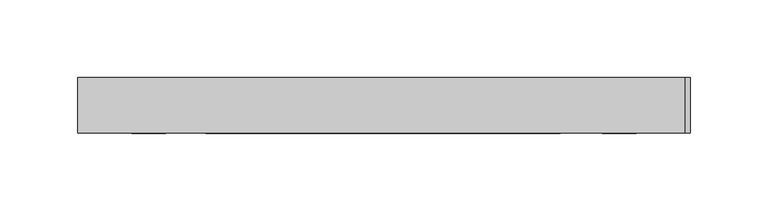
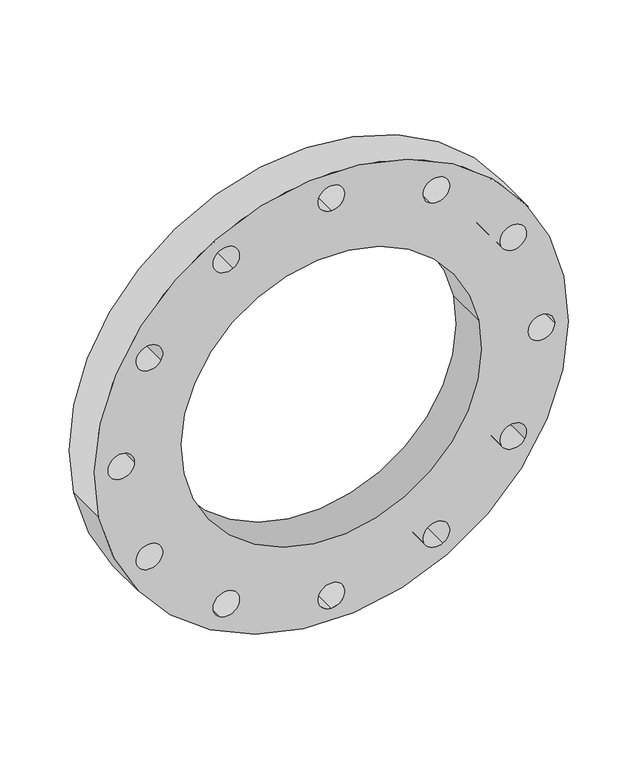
"""IFC4 building model written with IfcOpenShell, lengths in millimetres: pipe fitting geometry, 01051019 : Bridas."""

import ifcopenshell
import ifcopenshell.guid

model = None  # the IFC model being written
_history = None  # IfcOwnerHistory: only IFC2X3 demands one
_inside = {}  # id of a spatial element -> (the spatial element, [elements in it])
_under = {}  # id of a project, library or spatial element -> (it, [spatial elements below it])
_declared = {}  # id of a project -> (the project, [libraries it declares])
_typed = {}  # id of a type object -> (the type object, [elements of that type])
_made_of = {}  # id of a material, layer set ... -> (it, [elements and type objects made of it])


def new_model(schema):
    """Start an empty IFC model of exactly this schema.

    Asked for "IFC4X3", IfcOpenShell would pick the latest addendum, in which some entities
    have other attributes; the version numbers below select the first issue.
    IFC2X3 requires an IfcOwnerHistory on every rooted entity: one is made here for all.
    """
    global model, _history
    if schema == "IFC4X3":
        model = ifcopenshell.file(schema_version=(4, 3, 0, 0))
    else:
        model = ifcopenshell.file(schema=schema)
    _inside.clear()
    _under.clear()
    _declared.clear()
    _typed.clear()
    _made_of.clear()
    _history = None
    if model.schema == "IFC2X3":
        org = make("IfcOrganization", Name="unknown")
        user = make(
            "IfcPersonAndOrganization",
            ThePerson=make("IfcPerson", FamilyName="unknown"),
            TheOrganization=org,
        )
        app = make(
            "IfcApplication",
            ApplicationDeveloper=org,
            Version="unknown",
            ApplicationFullName="unknown",
            ApplicationIdentifier="unknown",
        )
        _history = make(
            "IfcOwnerHistory",
            OwningUser=user,
            OwningApplication=app,
            ChangeAction="ADDED",
            CreationDate=0,
        )
    return model


def make(cls, **values):
    """One entity of the class cls with the attributes given. An attribute that is None is left unset."""
    return model.create_entity(
        cls, **{name: value for name, value in values.items() if value is not None}
    )


def rooted(cls, **values):
    """An entity with a GlobalId (a new one), such as an element, a storey or a relation."""
    return make(cls, GlobalId=ifcopenshell.guid.new(), OwnerHistory=_history, **values)


def si_unit(unit_type, name, prefix=None):
    """IfcSIUnit, for example si_unit("LENGTHUNIT", "METRE", prefix="MILLI")."""
    return make("IfcSIUnit", UnitType=unit_type, Prefix=prefix, Name=name)


def assignment(units):
    """IfcUnitAssignment: the units of a project."""
    return None if units is None else make("IfcUnitAssignment", Units=units)


def point(xyz):
    """IfcCartesianPoint."""
    return None if xyz is None else make("IfcCartesianPoint", Coordinates=xyz)


def direction(xyz):
    """IfcDirection."""
    return None if xyz is None else make("IfcDirection", DirectionRatios=xyz)


def frame(location, z_axis=None, x_axis=None):
    """IfcAxis2Placement3D, a coordinate frame: its origin and axes. An axis left out is left unset."""
    return make(
        "IfcAxis2Placement3D",
        Location=point(location),
        Axis=direction(z_axis),
        RefDirection=direction(x_axis),
    )


def frame_2d(location, x_axis=None):
    """IfcAxis2Placement2D, a coordinate frame in the plane: its origin and x axis."""
    return make(
        "IfcAxis2Placement2D", Location=point(location), RefDirection=direction(x_axis)
    )


def origin():
    """The frame at (0, 0, 0) with its axes left unset."""
    return frame((0.0, 0.0, 0.0))


def origin_2d():
    """The frame at (0, 0) in the plane with its x axis left unset."""
    return frame_2d((0.0, 0.0))


def place(relative_to, where):
    """IfcLocalPlacement: puts the frame where relative to a parent placement (None: the world)."""
    return make(
        "IfcLocalPlacement", PlacementRelTo=relative_to, RelativePlacement=where
    )


def context(
    kind, dimensions, precision=None, world=None, true_north=None, identifier=None
):
    """IfcGeometricRepresentationContext, for example the 3D "Model" context."""
    return make(
        "IfcGeometricRepresentationContext",
        ContextIdentifier=identifier,
        ContextType=kind,
        CoordinateSpaceDimension=dimensions,
        Precision=precision,
        WorldCoordinateSystem=world,
        TrueNorth=true_north,
    )


def project(units=None, contexts=None):
    """IfcProject with its units and contexts."""
    return rooted(
        "IfcProject",
        Name="project",
        RepresentationContexts=contexts,
        UnitsInContext=assignment(units),
    )


def spatial(cls, under=None, at=None, **own):
    """A site, building, storey or space (cls), placed at a placement, below another one or the project."""
    s = rooted(cls, ObjectPlacement=at, **own)
    if under is not None:
        _under.setdefault(under.id(), (under, []))[1].append(s)
    return s


def circle_curve(where, radius):
    """IfcCircle in the frame where."""
    return make("IfcCircle", Position=where, Radius=radius)


def trimmed(basis, trim1, trim2, sense, master):
    """IfcTrimmedCurve: the piece of a basis curve between two trims."""
    return make(
        "IfcTrimmedCurve",
        BasisCurve=basis,
        Trim1=trim1,
        Trim2=trim2,
        SenseAgreement=sense,
        MasterRepresentation=master,
    )


def segment(curve, same_sense, transition):
    """IfcCompositeCurveSegment."""
    return make(
        "IfcCompositeCurveSegment",
        Transition=transition,
        SameSense=same_sense,
        ParentCurve=curve,
    )


def composite_curve(segments, self_intersect=None):
    """IfcCompositeCurve: segments joined end to end."""
    return make("IfcCompositeCurve", Segments=segments, SelfIntersect=self_intersect)


def outline(outer, holes=None, kind="AREA"):
    """IfcArbitraryClosedProfileDef: a profile drawn as a closed curve; with holes, ...WithVoids."""
    if holes is None:
        return make("IfcArbitraryClosedProfileDef", ProfileType=kind, OuterCurve=outer)
    return make(
        "IfcArbitraryProfileDefWithVoids",
        ProfileType=kind,
        OuterCurve=outer,
        InnerCurves=holes,
    )


def extrude(swept, where, along, depth):
    """IfcExtrudedAreaSolid: the profile swept, set in the frame where, extruded along a direction by depth."""
    return make(
        "IfcExtrudedAreaSolid",
        SweptArea=swept,
        Position=where,
        ExtrudedDirection=direction(along),
        Depth=depth,
    )


def shape(context_of_items, identifier, shape_type, items):
    """IfcShapeRepresentation: the items that make up one representation, for example the "Body"."""
    return make(
        "IfcShapeRepresentation",
        ContextOfItems=context_of_items,
        RepresentationIdentifier=identifier,
        RepresentationType=shape_type,
        Items=items,
    )


def source(mapping_origin, context_of_items, identifier, shape_type, items):
    """IfcRepresentationMap: a shape defined once, which mapped items show again and again."""
    return make(
        "IfcRepresentationMap",
        MappingOrigin=mapping_origin,
        MappedRepresentation=shape(context_of_items, identifier, shape_type, items),
    )


def transform(
    local_origin,
    x_axis=None,
    y_axis=None,
    z_axis=None,
    scale=None,
    scale2=None,
    scale3=None,
    uniform=True,
):
    """IfcCartesianTransformationOperator3D, or its non-uniform kind. x_axis, y_axis, z_axis: its Axis1, 2, 3."""
    if uniform:
        return make(
            "IfcCartesianTransformationOperator3D",
            Axis1=direction(x_axis),
            Axis2=direction(y_axis),
            LocalOrigin=point(local_origin),
            Scale=scale,
            Axis3=direction(z_axis),
        )
    return make(
        "IfcCartesianTransformationOperator3DnonUniform",
        Axis1=direction(x_axis),
        Axis2=direction(y_axis),
        LocalOrigin=point(local_origin),
        Scale=scale,
        Axis3=direction(z_axis),
        Scale2=scale2,
        Scale3=scale3,
    )


def mapped(mapping_source, mapping_target):
    """IfcMappedItem: shows the shape of a source again, moved by a transform."""
    return make(
        "IfcMappedItem", MappingSource=mapping_source, MappingTarget=mapping_target
    )


def made_of(thing, what):
    """Note that an element or type object is made of a material, layer set ...; save() writes the relation."""
    if what is not None:
        _made_of.setdefault(what.id(), (what, []))[1].append(thing)
    return thing


def element(
    cls,
    number,
    at=None,
    inside=None,
    cuts=None,
    type_object=None,
    material=None,
    context=None,
    identifier="Body",
    shape_type=None,
    held_by="IfcProductDefinitionShape",
    body=None,
    shapes=None,
    **own,
):
    """One element of the class cls, such as IfcWall. Its Tag is "e" and its number.

    at: its placement. inside: the storey or other place that contains it. cuts: it is an
    opening in that element (IfcRelVoidsElement). A single representation is given by context,
    identifier, shape_type and body (its items); several are given by shapes. held_by: the class
    of the entity that holds the representations. save() writes the other relations.
    """
    e = rooted(cls, Tag="e%d" % number, ObjectPlacement=at, **own)
    if body is not None:
        shapes = [shape(context, identifier, shape_type, body)]
    if shapes is not None:
        e.Representation = make(held_by, Representations=shapes)
    if inside is not None:
        _inside.setdefault(inside.id(), (inside, []))[1].append(e)
    if cuts is not None:
        rooted(
            "IfcRelVoidsElement", RelatingBuildingElement=cuts, RelatedOpeningElement=e
        )
    if type_object is not None:
        _typed.setdefault(type_object.id(), (type_object, []))[1].append(e)
    return made_of(e, material)


def aggregate(whole, parts):
    """IfcRelAggregates: a whole, such as a stair, and the parts it consists of."""
    return rooted("IfcRelAggregates", RelatingObject=whole, RelatedObjects=parts)


def save(model, path):
    """Write the relations noted so far, then the file.

    IfcRelAggregates (storeys below a building ...), IfcRelContainedInSpatialStructure (elements
    in a storey), IfcRelDefinesByType, IfcRelAssociatesMaterial and IfcRelDeclares: one each for
    every whole, place, type object, material and project.
    """
    for whole, parts in _under.values():
        aggregate(whole, parts)
    for where, things in _inside.values():
        rooted(
            "IfcRelContainedInSpatialStructure",
            RelatedElements=things,
            RelatingStructure=where,
        )
    for kind, things in _typed.values():
        rooted("IfcRelDefinesByType", RelatedObjects=things, RelatingType=kind)
    for what, things in _made_of.values():
        rooted("IfcRelAssociatesMaterial", RelatedObjects=things, RelatingMaterial=what)
    for by, libraries in _declared.values():
        rooted("IfcRelDeclares", RelatingContext=by, RelatedDefinitions=libraries)
    model.write(path)


def pipe_fitting_c4273ce7(model_context):
    return source(origin(), model_context, "Body", "SweptSolid", [
        extrude(outline(composite_curve([segment(trimmed(circle_curve(origin_2d(), 197.5), [point((-38.5303386, -193.7050929))], [point((38.5303386, 193.7050929))], False, "CARTESIAN"), True, "CONTINUOUS"), segment(trimmed(circle_curve(origin_2d(), 197.5), [point((38.5303386, 193.7050929))], [point((-38.5303386, -193.7050929))], False, "CARTESIAN"), True, "CONTINUOUS")], self_intersect=False), holes=[composite_curve([segment(trimmed(circle_curve(origin_2d(), 125.0), [point((-24.3862903, -122.5981601))], [point((24.3862903, 122.5981601))], True, "CARTESIAN"), True, "CONTINUOUS"), segment(trimmed(circle_curve(origin_2d(), 125.0), [point((24.3862903, 122.5981601))], [point((-24.3862903, -122.5981601))], True, "CARTESIAN"), True, "CONTINUOUS")], self_intersect=False), composite_curve([segment(trimmed(circle_curve(frame_2d((0.0, -175.0)), 11.0), [point((0.0, -164.0))], [point((0.0, -186.0))], True, "CARTESIAN"), True, "CONTINUOUS"), segment(trimmed(circle_curve(frame_2d((0.0, -175.0)), 11.0), [point((0.0, -186.0))], [point((0.0, -164.0))], True, "CARTESIAN"), True, "CONTINUOUS")], self_intersect=False), composite_curve([segment(trimmed(circle_curve(frame_2d((87.5, -151.5544457)), 11.0), [point((82.0, -142.0281662))], [point((93.0, -161.0807251))], True, "CARTESIAN"), True, "CONTINUOUS"), segment(trimmed(circle_curve(frame_2d((87.5, -151.5544457)), 11.0), [point((93.0, -161.0807251))], [point((82.0, -142.0281662))], True, "CARTESIAN"), True, "CONTINUOUS")], self_intersect=False), composite_curve([segment(trimmed(circle_curve(frame_2d((-87.5, -151.5544457)), 11.0), [point((-82.0, -142.0281662))], [point((-93.0, -161.0807251))], True, "CARTESIAN"), True, "CONTINUOUS"), segment(trimmed(circle_curve(frame_2d((-87.5, -151.5544457)), 11.0), [point((-93.0, -161.0807251))], [point((-82.0, -142.0281662))], True, "CARTESIAN"), True, "CONTINUOUS")], self_intersect=False), composite_curve([segment(trimmed(circle_curve(frame_2d((-151.5544457, -87.5)), 11.0), [point((-142.0281662, -82.0))], [point((-161.0807251, -93.0))], True, "CARTESIAN"), True, "CONTINUOUS"), segment(trimmed(circle_curve(frame_2d((-151.5544457, -87.5)), 11.0), [point((-161.0807251, -93.0))], [point((-142.0281662, -82.0))], True, "CARTESIAN"), True, "CONTINUOUS")], self_intersect=False), composite_curve([segment(trimmed(circle_curve(frame_2d((-175.0, 0.0)), 11.0), [point((-164.0, 0.0))], [point((-186.0, 0.0))], True, "CARTESIAN"), True, "CONTINUOUS"), segment(trimmed(circle_curve(frame_2d((-175.0, 0.0)), 11.0), [point((-186.0, 0.0))], [point((-164.0, 0.0))], True, "CARTESIAN"), True, "CONTINUOUS")], self_intersect=False), composite_curve([segment(trimmed(circle_curve(frame_2d((-151.5544457, 87.5)), 11.0), [point((-142.0281662, 82.0))], [point((-161.0807251, 93.0))], True, "CARTESIAN"), True, "CONTINUOUS"), segment(trimmed(circle_curve(frame_2d((-151.5544457, 87.5)), 11.0), [point((-161.0807251, 93.0))], [point((-142.0281662, 82.0))], True, "CARTESIAN"), True, "CONTINUOUS")], self_intersect=False), composite_curve([segment(trimmed(circle_curve(frame_2d((-87.5, 151.5544457)), 11.0), [point((-82.0, 142.0281662))], [point((-93.0, 161.0807251))], True, "CARTESIAN"), True, "CONTINUOUS"), segment(trimmed(circle_curve(frame_2d((-87.5, 151.5544457)), 11.0), [point((-93.0, 161.0807251))], [point((-82.0, 142.0281662))], True, "CARTESIAN"), True, "CONTINUOUS")], self_intersect=False), composite_curve([segment(trimmed(circle_curve(frame_2d((0.0, 175.0)), 11.0), [point((0.0, 164.0))], [point((0.0, 186.0))], True, "CARTESIAN"), True, "CONTINUOUS"), segment(trimmed(circle_curve(frame_2d((0.0, 175.0)), 11.0), [point((0.0, 186.0))], [point((0.0, 164.0))], True, "CARTESIAN"), True, "CONTINUOUS")], self_intersect=False), composite_curve([segment(trimmed(circle_curve(frame_2d((87.5, 151.5544457)), 11.0), [point((82.0, 142.0281662))], [point((93.0, 161.0807251))], True, "CARTESIAN"), True, "CONTINUOUS"), segment(trimmed(circle_curve(frame_2d((87.5, 151.5544457)), 11.0), [point((93.0, 161.0807251))], [point((82.0, 142.0281662))], True, "CARTESIAN"), True, "CONTINUOUS")], self_intersect=False), composite_curve([segment(trimmed(circle_curve(frame_2d((151.5544457, 87.5)), 11.0), [point((142.0281662, 82.0))], [point((161.0807251, 93.0))], True, "CARTESIAN"), True, "CONTINUOUS"), segment(trimmed(circle_curve(frame_2d((151.5544457, 87.5)), 11.0), [point((161.0807251, 93.0))], [point((142.0281662, 82.0))], True, "CARTESIAN"), True, "CONTINUOUS")], self_intersect=False), composite_curve([segment(trimmed(circle_curve(frame_2d((175.0, 0.0)), 11.0), [point((164.0, 0.0))], [point((186.0, 0.0))], True, "CARTESIAN"), True, "CONTINUOUS"), segment(trimmed(circle_curve(frame_2d((175.0, 0.0)), 11.0), [point((186.0, 0.0))], [point((164.0, 0.0))], True, "CARTESIAN"), True, "CONTINUOUS")], self_intersect=False), composite_curve([segment(trimmed(circle_curve(frame_2d((151.5544457, -87.5)), 11.0), [point((142.0281662, -82.0))], [point((161.0807251, -93.0))], True, "CARTESIAN"), True, "CONTINUOUS"), segment(trimmed(circle_curve(frame_2d((151.5544457, -87.5)), 11.0), [point((161.0807251, -93.0))], [point((142.0281662, -82.0))], True, "CARTESIAN"), True, "CONTINUOUS")], self_intersect=False)]), frame((0.0, -18.0, 0.0), z_axis=(0.0, 1.0, 0.0), x_axis=(0.0, 0.0, 1.0)), (0.0, 0.0, 1.0), 36.0),
    ])


if __name__ == "__main__":
    model = new_model("IFC4")
    model_context = context("Model", 3, world=origin())
    ifc_project = project(units=[si_unit("LENGTHUNIT", "METRE", prefix="MILLI")], contexts=[model_context])
    site = spatial("IfcSite", under=ifc_project)
    building = spatial("IfcBuilding", under=site)
    placement = place(None, origin())
    pipe_fitting_shape = pipe_fitting_c4273ce7(model_context)
    element("IfcPipeFitting", 1, ObjectType="01051019 : Bridas", at=placement, inside=building, context=model_context, shape_type="MappedRepresentation", body=[
        mapped(pipe_fitting_shape, transform((0.0, 0.0, 0.0), x_axis=(1.0, 0.0, 0.0), y_axis=(0.0, 1.0, 0.0), z_axis=(0.0, 0.0, 1.0))),
    ])
    save(model, "model.ifc")
